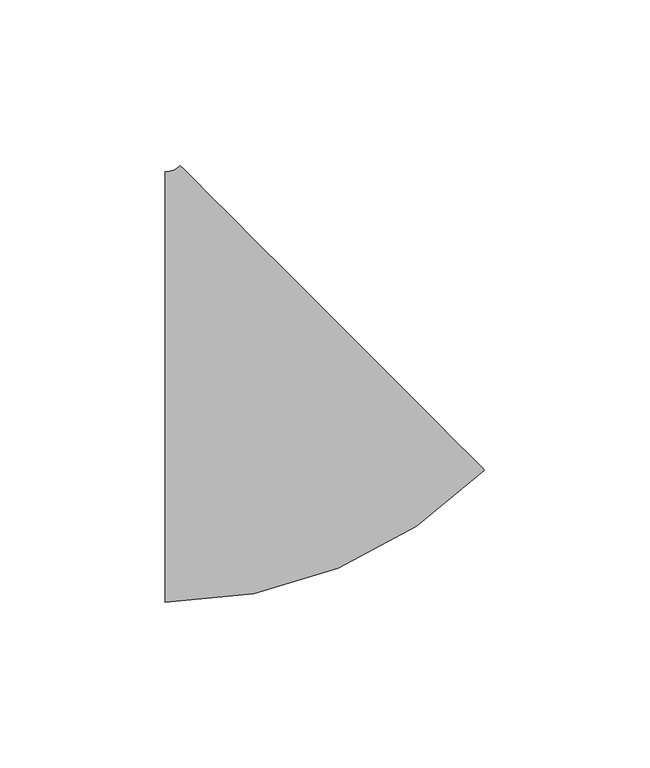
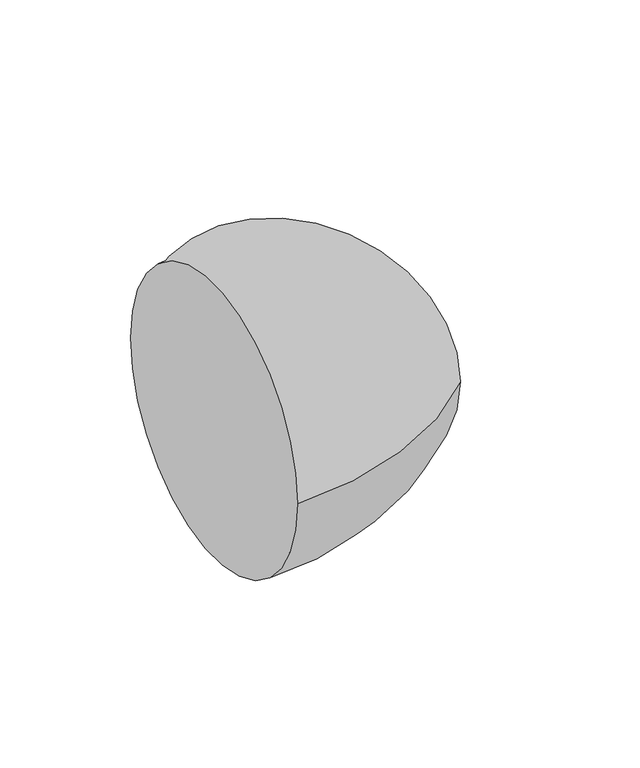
"""IFC4 building model written with IfcOpenShell, lengths in millimetres: pipe fitting geometry, M_Codo - Genérico : Estándar."""

import ifcopenshell
import ifcopenshell.guid

model = None  # the IFC model being written
_history = None  # IfcOwnerHistory: only IFC2X3 demands one
_inside = {}  # id of a spatial element -> (the spatial element, [elements in it])
_under = {}  # id of a project, library or spatial element -> (it, [spatial elements below it])
_declared = {}  # id of a project -> (the project, [libraries it declares])
_typed = {}  # id of a type object -> (the type object, [elements of that type])
_made_of = {}  # id of a material, layer set ... -> (it, [elements and type objects made of it])


def new_model(schema):
    """Start an empty IFC model of exactly this schema.

    Asked for "IFC4X3", IfcOpenShell would pick the latest addendum, in which some entities
    have other attributes; the version numbers below select the first issue.
    IFC2X3 requires an IfcOwnerHistory on every rooted entity: one is made here for all.
    """
    global model, _history
    if schema == "IFC4X3":
        model = ifcopenshell.file(schema_version=(4, 3, 0, 0))
    else:
        model = ifcopenshell.file(schema=schema)
    _inside.clear()
    _under.clear()
    _declared.clear()
    _typed.clear()
    _made_of.clear()
    _history = None
    if model.schema == "IFC2X3":
        org = make("IfcOrganization", Name="unknown")
        user = make(
            "IfcPersonAndOrganization",
            ThePerson=make("IfcPerson", FamilyName="unknown"),
            TheOrganization=org,
        )
        app = make(
            "IfcApplication",
            ApplicationDeveloper=org,
            Version="unknown",
            ApplicationFullName="unknown",
            ApplicationIdentifier="unknown",
        )
        _history = make(
            "IfcOwnerHistory",
            OwningUser=user,
            OwningApplication=app,
            ChangeAction="ADDED",
            CreationDate=0,
        )
    return model


def make(cls, **values):
    """One entity of the class cls with the attributes given. An attribute that is None is left unset."""
    return model.create_entity(
        cls, **{name: value for name, value in values.items() if value is not None}
    )


def rooted(cls, **values):
    """An entity with a GlobalId (a new one), such as an element, a storey or a relation."""
    return make(cls, GlobalId=ifcopenshell.guid.new(), OwnerHistory=_history, **values)


def si_unit(unit_type, name, prefix=None):
    """IfcSIUnit, for example si_unit("LENGTHUNIT", "METRE", prefix="MILLI")."""
    return make("IfcSIUnit", UnitType=unit_type, Prefix=prefix, Name=name)


def assignment(units):
    """IfcUnitAssignment: the units of a project."""
    return None if units is None else make("IfcUnitAssignment", Units=units)


def point(xyz):
    """IfcCartesianPoint."""
    return None if xyz is None else make("IfcCartesianPoint", Coordinates=xyz)


def direction(xyz):
    """IfcDirection."""
    return None if xyz is None else make("IfcDirection", DirectionRatios=xyz)


def frame(location, z_axis=None, x_axis=None):
    """IfcAxis2Placement3D, a coordinate frame: its origin and axes. An axis left out is left unset."""
    return make(
        "IfcAxis2Placement3D",
        Location=point(location),
        Axis=direction(z_axis),
        RefDirection=direction(x_axis),
    )


def origin():
    """The frame at (0, 0, 0) with its axes left unset."""
    return frame((0.0, 0.0, 0.0))


def place(relative_to, where):
    """IfcLocalPlacement: puts the frame where relative to a parent placement (None: the world)."""
    return make(
        "IfcLocalPlacement", PlacementRelTo=relative_to, RelativePlacement=where
    )


def context(
    kind, dimensions, precision=None, world=None, true_north=None, identifier=None
):
    """IfcGeometricRepresentationContext, for example the 3D "Model" context."""
    return make(
        "IfcGeometricRepresentationContext",
        ContextIdentifier=identifier,
        ContextType=kind,
        CoordinateSpaceDimension=dimensions,
        Precision=precision,
        WorldCoordinateSystem=world,
        TrueNorth=true_north,
    )


def project(units=None, contexts=None):
    """IfcProject with its units and contexts."""
    return rooted(
        "IfcProject",
        Name="project",
        RepresentationContexts=contexts,
        UnitsInContext=assignment(units),
    )


def spatial(cls, under=None, at=None, **own):
    """A site, building, storey or space (cls), placed at a placement, below another one or the project."""
    s = rooted(cls, ObjectPlacement=at, **own)
    if under is not None:
        _under.setdefault(under.id(), (under, []))[1].append(s)
    return s


def circle_curve(where, radius):
    """IfcCircle in the frame where."""
    return make("IfcCircle", Position=where, Radius=radius)


def ellipse_curve(where, semi_axis1, semi_axis2):
    """IfcEllipse in the frame where."""
    return make(
        "IfcEllipse", Position=where, SemiAxis1=semi_axis1, SemiAxis2=semi_axis2
    )


def trimmed(basis, trim1, trim2, sense, master):
    """IfcTrimmedCurve: the piece of a basis curve between two trims."""
    return make(
        "IfcTrimmedCurve",
        BasisCurve=basis,
        Trim1=trim1,
        Trim2=trim2,
        SenseAgreement=sense,
        MasterRepresentation=master,
    )


def shape(context_of_items, identifier, shape_type, items):
    """IfcShapeRepresentation: the items that make up one representation, for example the "Body"."""
    return make(
        "IfcShapeRepresentation",
        ContextOfItems=context_of_items,
        RepresentationIdentifier=identifier,
        RepresentationType=shape_type,
        Items=items,
    )


def source(mapping_origin, context_of_items, identifier, shape_type, items):
    """IfcRepresentationMap: a shape defined once, which mapped items show again and again."""
    return make(
        "IfcRepresentationMap",
        MappingOrigin=mapping_origin,
        MappedRepresentation=shape(context_of_items, identifier, shape_type, items),
    )


def transform(
    local_origin,
    x_axis=None,
    y_axis=None,
    z_axis=None,
    scale=None,
    scale2=None,
    scale3=None,
    uniform=True,
):
    """IfcCartesianTransformationOperator3D, or its non-uniform kind. x_axis, y_axis, z_axis: its Axis1, 2, 3."""
    if uniform:
        return make(
            "IfcCartesianTransformationOperator3D",
            Axis1=direction(x_axis),
            Axis2=direction(y_axis),
            LocalOrigin=point(local_origin),
            Scale=scale,
            Axis3=direction(z_axis),
        )
    return make(
        "IfcCartesianTransformationOperator3DnonUniform",
        Axis1=direction(x_axis),
        Axis2=direction(y_axis),
        LocalOrigin=point(local_origin),
        Scale=scale,
        Axis3=direction(z_axis),
        Scale2=scale2,
        Scale3=scale3,
    )


def mapped(mapping_source, mapping_target):
    """IfcMappedItem: shows the shape of a source again, moved by a transform."""
    return make(
        "IfcMappedItem", MappingSource=mapping_source, MappingTarget=mapping_target
    )


def made_of(thing, what):
    """Note that an element or type object is made of a material, layer set ...; save() writes the relation."""
    if what is not None:
        _made_of.setdefault(what.id(), (what, []))[1].append(thing)
    return thing


def element(
    cls,
    number,
    at=None,
    inside=None,
    cuts=None,
    type_object=None,
    material=None,
    context=None,
    identifier="Body",
    shape_type=None,
    held_by="IfcProductDefinitionShape",
    body=None,
    shapes=None,
    **own,
):
    """One element of the class cls, such as IfcWall. Its Tag is "e" and its number.

    at: its placement. inside: the storey or other place that contains it. cuts: it is an
    opening in that element (IfcRelVoidsElement). A single representation is given by context,
    identifier, shape_type and body (its items); several are given by shapes. held_by: the class
    of the entity that holds the representations. save() writes the other relations.
    """
    e = rooted(cls, Tag="e%d" % number, ObjectPlacement=at, **own)
    if body is not None:
        shapes = [shape(context, identifier, shape_type, body)]
    if shapes is not None:
        e.Representation = make(held_by, Representations=shapes)
    if inside is not None:
        _inside.setdefault(inside.id(), (inside, []))[1].append(e)
    if cuts is not None:
        rooted(
            "IfcRelVoidsElement", RelatingBuildingElement=cuts, RelatedOpeningElement=e
        )
    if type_object is not None:
        _typed.setdefault(type_object.id(), (type_object, []))[1].append(e)
    return made_of(e, material)


def aggregate(whole, parts):
    """IfcRelAggregates: a whole, such as a stair, and the parts it consists of."""
    return rooted("IfcRelAggregates", RelatingObject=whole, RelatedObjects=parts)


def save(model, path):
    """Write the relations noted so far, then the file.

    IfcRelAggregates (storeys below a building ...), IfcRelContainedInSpatialStructure (elements
    in a storey), IfcRelDefinesByType, IfcRelAssociatesMaterial and IfcRelDeclares: one each for
    every whole, place, type object, material and project.
    """
    for whole, parts in _under.values():
        aggregate(whole, parts)
    for where, things in _inside.values():
        rooted(
            "IfcRelContainedInSpatialStructure",
            RelatedElements=things,
            RelatingStructure=where,
        )
    for kind, things in _typed.values():
        rooted("IfcRelDefinesByType", RelatedObjects=things, RelatingType=kind)
    for what, things in _made_of.values():
        rooted("IfcRelAssociatesMaterial", RelatedObjects=things, RelatingMaterial=what)
    for by, libraries in _declared.values():
        rooted("IfcRelDeclares", RelatingContext=by, RelatedDefinitions=libraries)
    model.write(path)


def plane_surface(at):
    """IfcPlane: the flat surface through the origin of the frame at, square to its z axis."""
    return make("IfcPlane", Position=at)


def revolved_surface(curve, axis_point, axis_direction):
    """IfcSurfaceOfRevolution: the curve turned about the line through axis_point along axis_direction."""
    return make(
        "IfcSurfaceOfRevolution",
        SweptCurve=make("IfcArbitraryOpenProfileDef", ProfileType="CURVE", Curve=curve),
        AxisPosition=make("IfcAxis1Placement", Location=point(axis_point), Axis=direction(axis_direction)),
    )


def advanced_brep(points, edges, surfaces, faces):
    """IfcAdvancedBrep: a solid bounded by faces that lie on surfaces and meet in shared edges.

    An edge is (start, end): straight between two places in points (the first is 0);
    or (start, end, curve); or (start, end, curve, False) where it runs against its curve.
    A face is (place in surfaces, loops), or (place, loops, False) where it looks against
    its surface's normal. A loop lists edges by number (the first is 1), with a minus sign
    where the edge is run from its end to its start. The first loop is the outer one.
    """
    corners = [point(p) for p in points]
    vertices = [make("IfcVertexPoint", VertexGeometry=c) for c in corners]
    made = []
    for start, end, *more in edges:
        made.append(
            make(
                "IfcEdgeCurve",
                EdgeStart=vertices[start],
                EdgeEnd=vertices[end],
                EdgeGeometry=more[0] if more else make("IfcPolyline", Points=[corners[start], corners[end]]),
                SameSense=more[1] if len(more) > 1 else True,
            )
        )
    hull = []
    for where, loops, *sense in faces:
        bounds = []
        for j, loop in enumerate(loops):
            ring = [make("IfcOrientedEdge", EdgeElement=made[abs(k) - 1], Orientation=k > 0) for k in loop]
            bounds.append(
                make(
                    "IfcFaceOuterBound" if j == 0 else "IfcFaceBound",
                    Bound=make("IfcEdgeLoop", EdgeList=ring),
                    Orientation=True,
                )
            )
        hull.append(make("IfcAdvancedFace", Bounds=bounds, FaceSurface=surfaces[where], SameSense=sense[0] if sense else True))
    return make("IfcAdvancedBrep", Outer=make("IfcClosedShell", CfsFaces=hull))


def pipe_fitting_d6cfa5ea(model_context):
    return source(origin(), model_context, "Body", "AdvancedBrep", [
        advanced_brep(
        [(-29.5903814, -65.0875, 0.0), (-29.5903814, 65.0875, 0.0), (66.9473719, -25.1002533, 0.0), (-25.1002533, 66.9473719, 0.0)],
        [
            (0, 1, circle_curve(frame((-29.5903814, 0.0, 0.0), z_axis=(-1.0, 0.0, 0.0), x_axis=(0.0, 1.0, 0.0)), 65.0875)),
            (1, 0, circle_curve(frame((-29.5903814, 0.0, 0.0), z_axis=(-1.0, 0.0, 0.0), x_axis=(0.0, 1.0, 0.0)), 65.0875)),
            (2, 3, circle_curve(frame((20.9235593, 20.9235593, 0.0), z_axis=(0.7071067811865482, 0.7071067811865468, 0.0), x_axis=(-0.7071067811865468, 0.7071067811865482, 0.0)), 65.0875)),
            (3, 2, circle_curve(frame((20.9235593, 20.9235593, 0.0), z_axis=(0.7071067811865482, 0.7071067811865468, 0.0), x_axis=(-0.7071067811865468, 0.7071067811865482, 0.0)), 65.0875)),
            (3, 1, circle_curve(frame((-29.5903814, 71.4375, 0.0), z_axis=(0.0, 0.0, -1.0), x_axis=(0.0, -1.0, 0.0)), 6.35)),
            (0, 2, circle_curve(frame((-29.5903814, 71.4375, 0.0), z_axis=(0.0, 0.0, 1.0), x_axis=(0.0, -1.0, 0.0)), 136.525)),
        ],
        [
            plane_surface(frame((-29.5903814, 0.0, 0.0), z_axis=(-1.0, 0.0, 0.0), x_axis=(0.0, 0.0, 1.0))),
            plane_surface(frame((20.9235593, 20.9235593, 0.0), z_axis=(0.707106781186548, 0.707106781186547, 0.0), x_axis=(0.0, 0.0, 1.0))),
            revolved_surface(trimmed(ellipse_curve(frame((-29.5903814, 0.0, 0.0), z_axis=(-1.0, 0.0, 0.0), x_axis=(0.0, 1.0, 0.0)), 65.0875, 65.0875), [point((-29.5903814, -65.0875, 0.0))], [point((-29.5903814, 65.0875, 0.0))], True, "CARTESIAN"), (-29.5903814, 71.4375, 0.0), (0.0, 0.0, 1.0)),
            revolved_surface(trimmed(ellipse_curve(frame((-29.5903814, 0.0, 0.0), z_axis=(-1.0, 0.0, 0.0), x_axis=(0.0, 1.0, 0.0)), 65.0875, 65.0875), [point((-29.5903814, 65.0875, 0.0))], [point((-29.5903814, -65.0875, 0.0))], True, "CARTESIAN"), (-29.5903814, 71.4375, 0.0), (0.0, 0.0, 1.0)),
        ],
        [
            (0, [[1, 2]]),
            (1, [[3, 4]]),
            (2, [[5, -1, 6, -4]]),
            (3, [[-6, -2, -5, -3]]),
        ],
    ),
    ])


if __name__ == "__main__":
    model = new_model("IFC4")
    model_context = context("Model", 3, world=origin())
    ifc_project = project(units=[si_unit("LENGTHUNIT", "METRE", prefix="MILLI")], contexts=[model_context])
    site = spatial("IfcSite", under=ifc_project)
    building = spatial("IfcBuilding", under=site)
    placement = place(None, origin())
    pipe_fitting_shape = pipe_fitting_d6cfa5ea(model_context)
    element("IfcPipeFitting", 1, ObjectType="M_Codo - Genérico : Estándar", at=placement, inside=building, context=model_context, shape_type="MappedRepresentation", body=[
        mapped(pipe_fitting_shape, transform((0.0, 0.0, 0.0), x_axis=(1.0, 0.0, 0.0), y_axis=(0.0, 1.0, 0.0), z_axis=(0.0, 0.0, 1.0))),
    ])
    save(model, "model.ifc")
